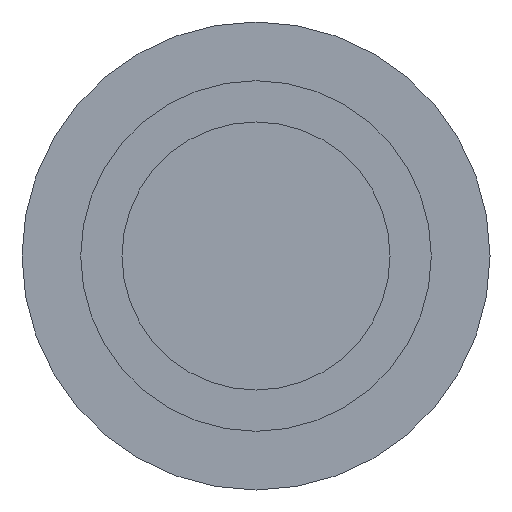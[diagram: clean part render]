
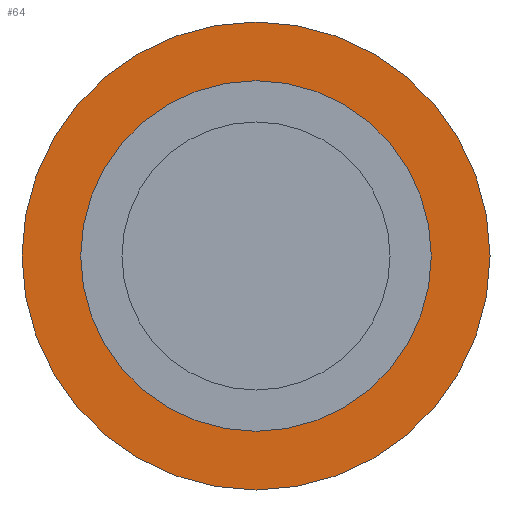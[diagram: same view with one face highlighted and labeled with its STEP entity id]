
A CAD part, front view. The second image highlights one B-rep face of the part: STEP entity #64.
In plain terms, the highlighted planar face has unit normal (0, -1, 0).
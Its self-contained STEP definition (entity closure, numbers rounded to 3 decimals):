
#39 = ORIENTED_EDGE ( 'NONE', *, *, #369, .T. ) ;
#41 = AXIS2_PLACEMENT_3D ( 'NONE', #287, #137, #391 ) ;
#45 = CIRCLE ( 'NONE', #41, 27.5 ) ;
#62 = FACE_BOUND ( 'NONE', #159, .T. ) ;
#64 = ADVANCED_FACE ( 'NONE', ( #62, #216 ), #250, .T. ) ;
#69 = DIRECTION ( 'NONE',  ( 0., -1., 0. ) ) ;
#80 = DIRECTION ( 'NONE',  ( 0., 1., 0. ) ) ;
#84 = DIRECTION ( 'NONE',  ( 0., 0., 1. ) ) ;
#89 = EDGE_CURVE ( 'NONE', #266, #319, #356, .T. ) ;
#102 = VERTEX_POINT ( 'NONE', #314 ) ;
#107 = CARTESIAN_POINT ( 'NONE',  ( -20.6, 0., 0. ) ) ;
#112 = DIRECTION ( 'NONE',  ( 0., 1., 0. ) ) ;
#121 = ORIENTED_EDGE ( 'NONE', *, *, #293, .F. ) ;
#133 = DIRECTION ( 'NONE',  ( 0., 0., -1. ) ) ;
#137 = DIRECTION ( 'NONE',  ( 0., 1., 0. ) ) ;
#141 = DIRECTION ( 'NONE',  ( 0., 0., 1. ) ) ;
#159 = EDGE_LOOP ( 'NONE', ( #39, #344 ) ) ;
#161 = AXIS2_PLACEMENT_3D ( 'NONE', #277, #288, #141 ) ;
#166 = VERTEX_POINT ( 'NONE', #233 ) ;
#192 = CIRCLE ( 'NONE', #337, 27.5 ) ;
#199 = DIRECTION ( 'NONE',  ( 0., 0., 1. ) ) ;
#216 = FACE_OUTER_BOUND ( 'NONE', #373, .T. ) ;
#233 = CARTESIAN_POINT ( 'NONE',  ( 0., 0., 27.5 ) ) ;
#236 = CARTESIAN_POINT ( 'NONE',  ( 0., 0., 0. ) ) ;
#250 = PLANE ( 'NONE',  #335 ) ;
#254 = ORIENTED_EDGE ( 'NONE', *, *, #352, .F. ) ;
#266 = VERTEX_POINT ( 'NONE', #267 ) ;
#267 = CARTESIAN_POINT ( 'NONE',  ( 0., 0., -20.6 ) ) ;
#277 = CARTESIAN_POINT ( 'NONE',  ( 0., 0., 0. ) ) ;
#287 = CARTESIAN_POINT ( 'NONE',  ( 0., 0., 0. ) ) ;
#288 = DIRECTION ( 'NONE',  ( 0., 1., 0. ) ) ;
#292 = CARTESIAN_POINT ( 'NONE',  ( 0., 0., 0. ) ) ;
#293 = EDGE_CURVE ( 'NONE', #102, #166, #45, .T. ) ;
#314 = CARTESIAN_POINT ( 'NONE',  ( 0., 0., -27.5 ) ) ;
#319 = VERTEX_POINT ( 'NONE', #392 ) ;
#335 = AXIS2_PLACEMENT_3D ( 'NONE', #107, #69, #133 ) ;
#337 = AXIS2_PLACEMENT_3D ( 'NONE', #292, #80, #84 ) ;
#343 = CIRCLE ( 'NONE', #379, 20.6 ) ;
#344 = ORIENTED_EDGE ( 'NONE', *, *, #89, .T. ) ;
#352 = EDGE_CURVE ( 'NONE', #166, #102, #192, .T. ) ;
#356 = CIRCLE ( 'NONE', #161, 20.6 ) ;
#369 = EDGE_CURVE ( 'NONE', #319, #266, #343, .T. ) ;
#373 = EDGE_LOOP ( 'NONE', ( #254, #121 ) ) ;
#379 = AXIS2_PLACEMENT_3D ( 'NONE', #236, #112, #199 ) ;
#391 = DIRECTION ( 'NONE',  ( 0., 0., 1. ) ) ;
#392 = CARTESIAN_POINT ( 'NONE',  ( 0., 0., 20.6 ) ) ;
